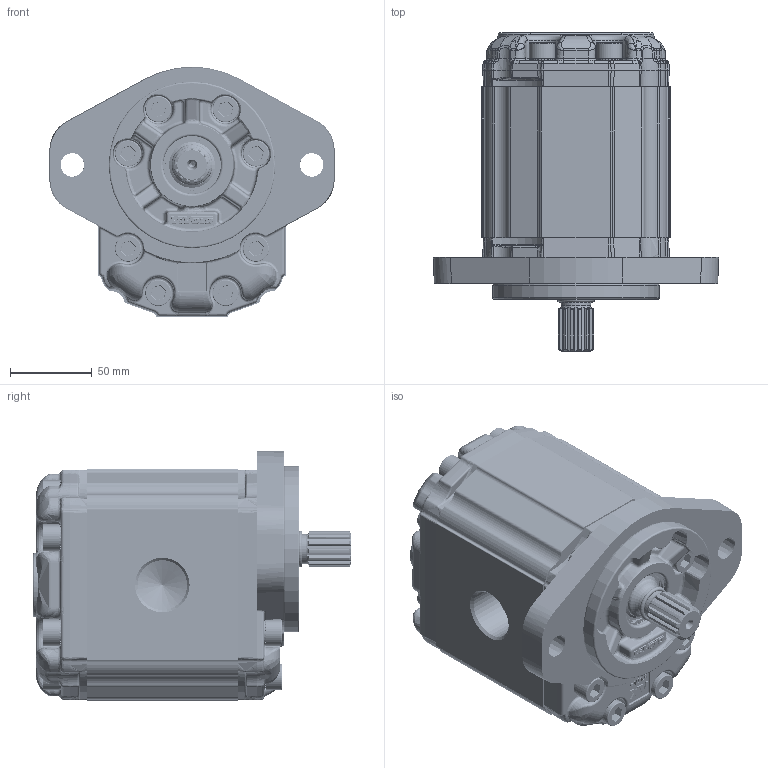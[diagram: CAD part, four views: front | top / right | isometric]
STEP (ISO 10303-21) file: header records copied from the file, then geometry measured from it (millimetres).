
FILE_DESCRIPTION(/* description */ ('Unknown'),/* implementation_level */ '2;1');
FILE_NAME(/* name */ 'X3P8032IEDA',/* time_stamp */ '2023-09-28T16:17:58+02:00',/* author */ ('Unknown'),/* organization */ ('Unknown'),/* preprocessor_version */ 'ST-DEVELOPER v16.7',/* originating_system */ 'Solid Edge',/* authorisation */ 'Unknown');
FILE_SCHEMA (('AUTOMOTIVE_DESIGN {1 0 10303 214 3 1 1}'));
Products named in the file (5): X3P8032IEDA; X3P32; 3I; X3EDH92; XP331-A
Assembly tree (4 placements, depth 2):
  X3P8032IEDA
    X3P32
    3I
    X3EDH92
    XP331-A
Bounding box: 174 x 194.2 x 153 mm (x, y, z)
Volume: 2191545.5 mm3; surface area: 226058.2 mm2
Topology: 4 solids, 5 shells, 4716 faces, 14354 edges, 8949 vertices
Faces by surface type: cylinder 1847, plane 1272, bspline 1254, torus 172, cone 145, sphere 26
Full cylindrical faces by diameter (mm): 2 x2, 10 x16, 10.35 x30, 10.5 x1, 14.314 x1, 14.315 x1, 15.8 x16, 16 x16, 18 x2, 24.117 x2, 24.98 x1, 25 x2, 25.968 x1, 28.16 x1, 30.291 x1, 31 x1, 31.293 x1, 32.742 x1, 34.956 x1, 35 x1, 35.2 x1, 37 x1, 101.6 x1
Entity records: 348366 total; most frequent: CARTESIAN_POINT 199865, ORIENTED_EDGE 27792, DIRECTION 19817, EDGE_CURVE 13896, VERTEX_POINT 8809, AXIS2_PLACEMENT_3D 7499, FACE_BOUND 5151, EDGE_LOOP 5147
